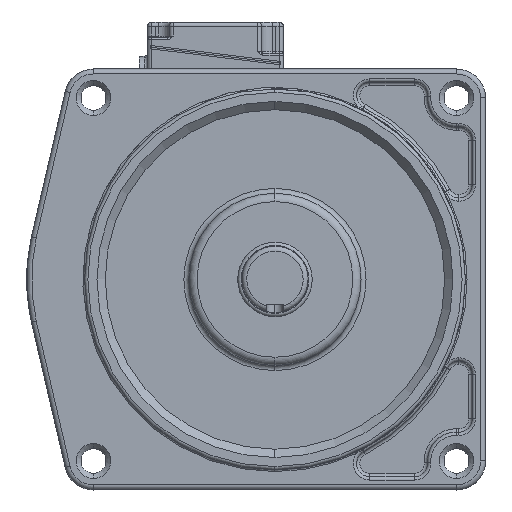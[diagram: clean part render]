
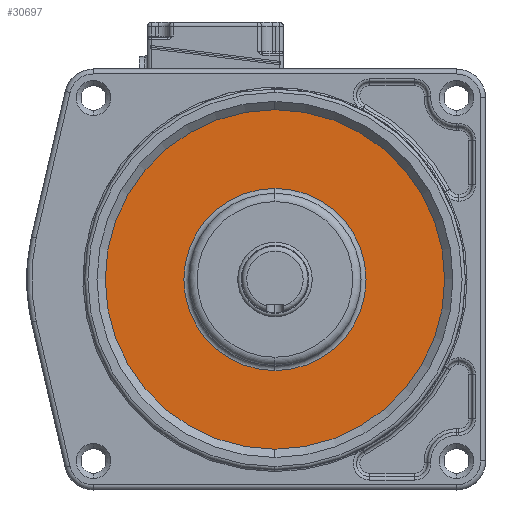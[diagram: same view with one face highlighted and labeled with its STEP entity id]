
A CAD part, top view. The second image highlights one B-rep face of the part: STEP entity #30697.
In plain terms, the highlighted planar face has unit normal (0, 0, 1).
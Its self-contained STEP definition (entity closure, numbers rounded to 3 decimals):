
#30621=CARTESIAN_POINT('',(6215.338,-1618.222,262.896));
#30622=VERTEX_POINT('',#30621);
#30623=CARTESIAN_POINT('',(6215.338,-1508.222,262.896));
#30624=VERTEX_POINT('',#30623);
#30625=CARTESIAN_POINT('',(6215.338,-1563.222,262.896));
#30626=DIRECTION('',(0.,0.,1.));
#30627=DIRECTION('',(0.,-1.,0.));
#30628=AXIS2_PLACEMENT_3D('',#30625,#30626,#30627);
#30629=CIRCLE('',#30628,55.);
#30630=EDGE_CURVE('',#30622,#30624,#30629,.T.);
#30655=CARTESIAN_POINT('',(6215.338,-1563.222,262.896));
#30656=DIRECTION('',(0.,-0.,1.));
#30657=DIRECTION('',(0.,1.,0.));
#30658=AXIS2_PLACEMENT_3D('',#30655,#30656,#30657);
#30659=CIRCLE('',#30658,55.);
#30660=EDGE_CURVE('',#30624,#30622,#30659,.T.);
#30668=CARTESIAN_POINT('',(6108.65,-1456.622,262.896));
#30669=DIRECTION('',(0.,0.,1.));
#30670=DIRECTION('',(0.,-1.,0.));
#30671=AXIS2_PLACEMENT_3D('',#30668,#30669,#30670);
#30672=PLANE('',#30671);
#30673=CARTESIAN_POINT('',(6215.338,-1665.722,262.896));
#30674=VERTEX_POINT('',#30673);
#30675=CARTESIAN_POINT('',(6215.338,-1460.722,262.896));
#30676=VERTEX_POINT('',#30675);
#30677=CARTESIAN_POINT('',(6215.338,-1563.222,262.896));
#30678=DIRECTION('',(0.,0.,-1.));
#30679=DIRECTION('',(0.,-1.,0.));
#30680=AXIS2_PLACEMENT_3D('',#30677,#30678,#30679);
#30681=CIRCLE('',#30680,102.5);
#30682=EDGE_CURVE('',#30674,#30676,#30681,.T.);
#30683=ORIENTED_EDGE('',*,*,#30682,.F.);
#30684=CARTESIAN_POINT('',(6215.338,-1563.222,262.896));
#30685=DIRECTION('',(0.,0.,-1.));
#30686=DIRECTION('',(0.,1.,0.));
#30687=AXIS2_PLACEMENT_3D('',#30684,#30685,#30686);
#30688=CIRCLE('',#30687,102.5);
#30689=EDGE_CURVE('',#30676,#30674,#30688,.T.);
#30690=ORIENTED_EDGE('',*,*,#30689,.F.);
#30691=EDGE_LOOP('',(#30683,#30690));
#30692=FACE_BOUND('',#30691,.T.);
#30693=ORIENTED_EDGE('',*,*,#30660,.F.);
#30694=ORIENTED_EDGE('',*,*,#30630,.F.);
#30695=EDGE_LOOP('',(#30693,#30694));
#30696=FACE_BOUND('',#30695,.T.);
#30697=ADVANCED_FACE('',(#30692,#30696),#30672,.T.);
